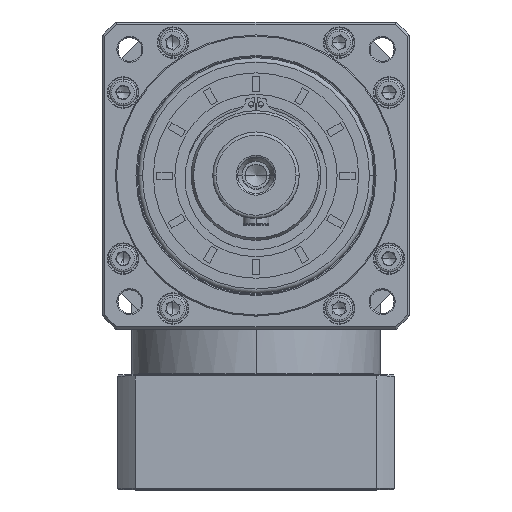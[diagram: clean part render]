
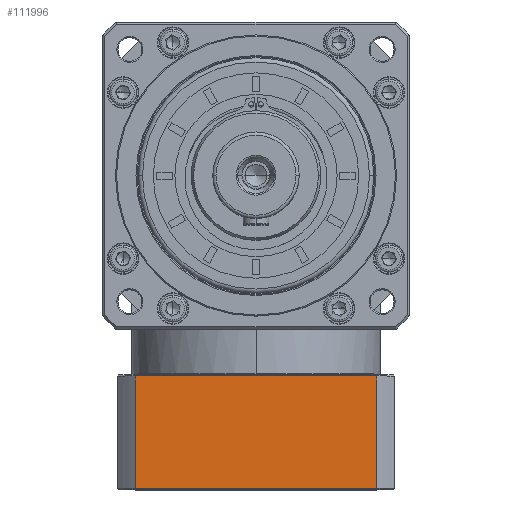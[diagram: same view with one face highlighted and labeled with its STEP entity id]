
A CAD part, top view. The second image highlights one B-rep face of the part: STEP entity #111996.
In plain terms, the highlighted planar face has unit normal (0, 0, 1).
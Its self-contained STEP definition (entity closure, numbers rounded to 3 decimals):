
#10720 = EDGE_CURVE ( 'NONE', #22682, #61703, #161592, .T. ) ;
#12380 = DIRECTION ( 'NONE',  ( 0., 1., 0. ) ) ;
#22682 = VERTEX_POINT ( 'NONE', #148148 ) ;
#23809 = ORIENTED_EDGE ( 'NONE', *, *, #10720, .F. ) ;
#24493 = ORIENTED_EDGE ( 'NONE', *, *, #62612, .F. ) ;
#28280 = EDGE_CURVE ( 'NONE', #61703, #126049, #77281, .T. ) ;
#31225 = EDGE_CURVE ( 'NONE', #158531, #22682, #84123, .T. ) ;
#38177 = ORIENTED_EDGE ( 'NONE', *, *, #28280, .F. ) ;
#46374 = VECTOR ( 'NONE', #149994, 1000. ) ;
#48455 = PLANE ( 'NONE',  #130977 ) ;
#50290 = DIRECTION ( 'NONE',  ( -1., 0., 0. ) ) ;
#52098 = CARTESIAN_POINT ( 'NONE',  ( -148.706, 33.62, 31.196 ) ) ;
#56557 = DIRECTION ( 'NONE',  ( 1., 0., 0. ) ) ;
#61703 = VERTEX_POINT ( 'NONE', #83934 ) ;
#62612 = EDGE_CURVE ( 'NONE', #126049, #158531, #182341, .T. ) ;
#62615 = VECTOR ( 'NONE', #107139, 1000. ) ;
#62732 = DIRECTION ( 'NONE',  ( 0., 0., -1. ) ) ;
#69008 = CARTESIAN_POINT ( 'NONE',  ( -268.644, 33.62, 31.196 ) ) ;
#72552 = EDGE_LOOP ( 'NONE', ( #24493, #38177, #23809, #79625 ) ) ;
#77281 = LINE ( 'NONE', #69008, #115015 ) ;
#79625 = ORIENTED_EDGE ( 'NONE', *, *, #31225, .F. ) ;
#81874 = CARTESIAN_POINT ( 'NONE',  ( -268.644, -18.38, 31.196 ) ) ;
#83934 = CARTESIAN_POINT ( 'NONE',  ( -260.581, 33.62, 31.196 ) ) ;
#84123 = LINE ( 'NONE', #81874, #46374 ) ;
#97135 = CARTESIAN_POINT ( 'NONE',  ( -260.581, -18.88, 31.196 ) ) ;
#103733 = FACE_OUTER_BOUND ( 'NONE', #72552, .T. ) ;
#107139 = DIRECTION ( 'NONE',  ( 0., -1., 0. ) ) ;
#111996 = ADVANCED_FACE ( 'NONE', ( #103733 ), #48455, .F. ) ;
#115015 = VECTOR ( 'NONE', #56557, 1000. ) ;
#117749 = CARTESIAN_POINT ( 'NONE',  ( -148.706, -18.38, 31.196 ) ) ;
#124006 = VECTOR ( 'NONE', #12380, 1000. ) ;
#126049 = VERTEX_POINT ( 'NONE', #52098 ) ;
#130977 = AXIS2_PLACEMENT_3D ( 'NONE', #148239, #62732, #50290 ) ;
#148148 = CARTESIAN_POINT ( 'NONE',  ( -260.581, -18.38, 31.196 ) ) ;
#148239 = CARTESIAN_POINT ( 'NONE',  ( -268.644, -18.88, 31.196 ) ) ;
#149829 = CARTESIAN_POINT ( 'NONE',  ( -148.706, 276.94, 31.196 ) ) ;
#149994 = DIRECTION ( 'NONE',  ( -1., 0., 0. ) ) ;
#158531 = VERTEX_POINT ( 'NONE', #117749 ) ;
#161592 = LINE ( 'NONE', #97135, #124006 ) ;
#182341 = LINE ( 'NONE', #149829, #62615 ) ;
